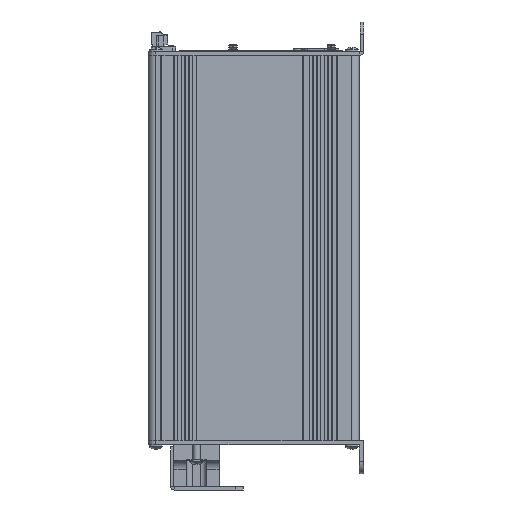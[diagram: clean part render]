
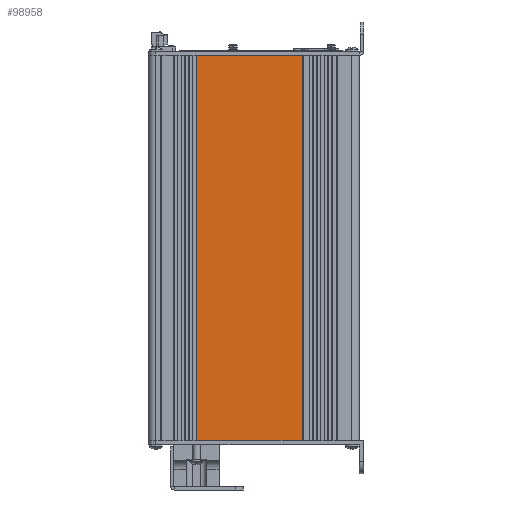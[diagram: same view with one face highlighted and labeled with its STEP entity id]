
A CAD part, left-side view. The second image highlights one B-rep face of the part: STEP entity #98958.
In plain terms, the highlighted planar face has unit normal (-1, 0, 0).
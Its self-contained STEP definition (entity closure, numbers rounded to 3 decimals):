
#6520=PLANE('',#105110);
#12818=LINE('',#158029,#21650);
#13751=LINE('',#169380,#22583);
#13966=LINE('',#169988,#22798);
#13967=LINE('',#169990,#22799);
#21650=VECTOR('',#119007,10.);
#22583=VECTOR('',#122388,10.);
#22798=VECTOR('',#122983,10.);
#22799=VECTOR('',#122986,10.);
#29670=FACE_OUTER_BOUND('',#35305,.T.);
#35305=EDGE_LOOP('',(#82363,#82364,#82365,#82366));
#45180=VERTEX_POINT('',#158026);
#45181=VERTEX_POINT('',#158028);
#46211=VERTEX_POINT('',#169377);
#46212=VERTEX_POINT('',#169379);
#56716=EDGE_CURVE('',#45180,#45181,#12818,.T.);
#58524=EDGE_CURVE('',#46212,#46211,#13751,.T.);
#58833=EDGE_CURVE('',#46211,#45181,#13966,.T.);
#58834=EDGE_CURVE('',#46212,#45180,#13967,.T.);
#82363=ORIENTED_EDGE('',*,*,#58524,.T.);
#82364=ORIENTED_EDGE('',*,*,#58833,.T.);
#82365=ORIENTED_EDGE('',*,*,#56716,.F.);
#82366=ORIENTED_EDGE('',*,*,#58834,.F.);
#98958=ADVANCED_FACE('',(#29670),#6520,.T.);
#105110=AXIS2_PLACEMENT_3D('',#169989,#122984,#122985);
#119007=DIRECTION('',(0.,-1.,0.));
#122388=DIRECTION('',(0.,-1.,0.));
#122983=DIRECTION('',(0.,0.,1.));
#122984=DIRECTION('center_axis',(-1.,0.,0.));
#122985=DIRECTION('ref_axis',(0.,-1.,0.));
#122986=DIRECTION('',(0.,0.,1.));
#158026=CARTESIAN_POINT('',(17.066,118.145,0.));
#158028=CARTESIAN_POINT('',(17.066,48.145,0.));
#158029=CARTESIAN_POINT('',(17.066,118.145,0.));
#169377=CARTESIAN_POINT('',(17.066,48.145,-255.));
#169379=CARTESIAN_POINT('',(17.066,118.145,-255.));
#169380=CARTESIAN_POINT('',(17.066,118.145,-255.));
#169988=CARTESIAN_POINT('',(17.066,48.145,-255.));
#169989=CARTESIAN_POINT('Origin',(17.066,118.145,-255.));
#169990=CARTESIAN_POINT('',(17.066,118.145,-255.));
